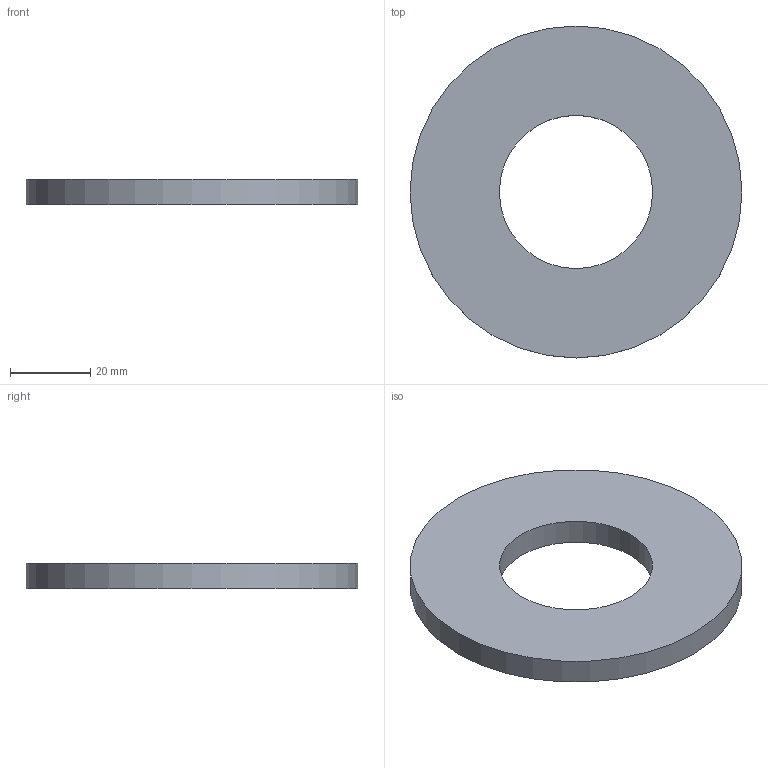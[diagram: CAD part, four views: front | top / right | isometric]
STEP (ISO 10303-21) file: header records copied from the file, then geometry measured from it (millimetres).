
FILE_DESCRIPTION(/* description */ (''),/* implementation_level */ '2;1');
FILE_NAME(/* name */ 'C:\001_Work\Designs\HLW\HLW-1.375.stp',/* time_stamp */ '2015-09-04T08:56:53-04:00',/* author */ ('rramoutar'),/* organization */ ('Mason Industries Inc.'),/* preprocessor_version */ 'ST-DEVELOPER v15.6',/* originating_system */ 'Autodesk Inventor 2015',/* authorisation */ '');
FILE_SCHEMA (('AUTOMOTIVE_DESIGN { 1 0 10303 214 3 1 1 }'));
Length unit declared in the file: inch
Products named in the file (1): HLW-1.375
Bounding box: 82.55 x 82.55 x 6.35 mm (x, y, z)
Volume: 26746.2 mm3; surface area: 10830.9 mm2
Topology: 1 solids, 1 shells, 4 faces, 6 edges, 4 vertices
Faces by surface type: cylinder 2, plane 2
Full cylindrical faces by diameter (mm): 38.1 x1, 82.55 x1
Entity records: 114 total; most frequent: DIRECTION 18, CARTESIAN_POINT 13, AXIS2_PLACEMENT_3D 9, EDGE_LOOP 8, ORIENTED_EDGE 8, FACE_BOUND 4, FACE_OUTER_BOUND 4, CIRCLE 4
